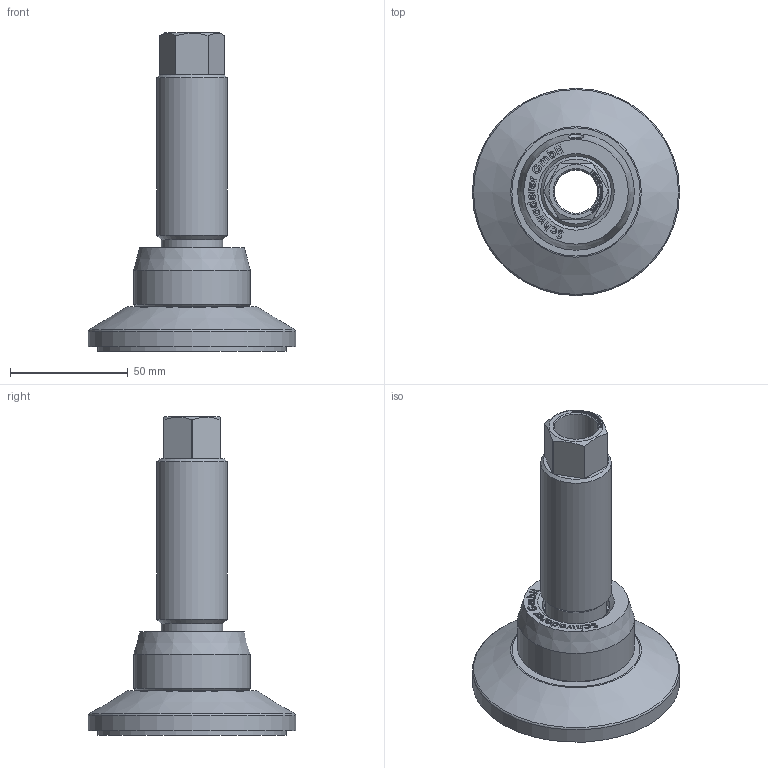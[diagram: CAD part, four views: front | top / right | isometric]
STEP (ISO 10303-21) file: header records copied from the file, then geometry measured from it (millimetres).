
FILE_DESCRIPTION(/* description */ ('JCM 80C - M30 - S6'),/* implementation_level */ '2;1');
FILE_NAME(/* name */ 'C:\Users\Public\Documents\Autodesk\Inventor LT 2016\Workspace\Fussplatte+Blechteller\JCMHD 80C - S6.stp',/* time_stamp */ '2017-01-10T11:13:10+01:00',/* author */ ('T. Rey'),/* organization */ ('Schwaderer GmbH Robert-Bosch-Str. 10 71563 Affalterbach'),/* preprocessor_version */ 'ST-DEVELOPER v16.1',/* originating_system */ 'Autodesk Inventor LT ',/* authorisation */ '');
FILE_SCHEMA (('CONFIG_CONTROL_DESIGN'));
Length unit declared in the file: millimetre
Products named in the file (1): JCM - M30
Bounding box: 88 x 88 x 135.4 mm (x, y, z)
Volume: 157617.7 mm3; surface area: 53930.9 mm2
Topology: 4 solids, 4 shells, 479 faces, 1260 edges, 829 vertices
Faces by surface type: plane 243, bspline 192, cylinder 23, cone 17, torus 3, sphere 1
Full cylindrical faces by diameter (mm): 5 x1, 18.5 x2, 25 x1, 26 x1, 26.5 x1, 27.5 x1, 28.5 x2, 30 x2, 31 x1, 49.5 x1, 80 x2, 88 x1
Entity records: 15628 total; most frequent: CARTESIAN_POINT 5181, ORIENTED_EDGE 2440, DIRECTION 1468, EDGE_CURVE 1220, VERTEX_POINT 824, LINE 750, VECTOR 750, EDGE_LOOP 564
